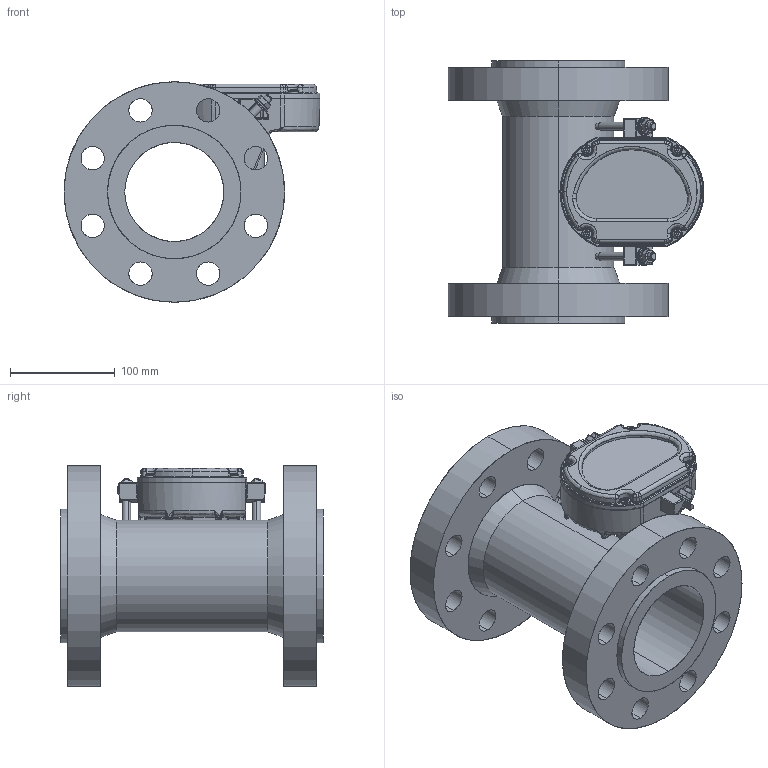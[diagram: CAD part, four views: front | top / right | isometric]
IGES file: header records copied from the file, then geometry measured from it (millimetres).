
Start section: SolidWorks IGES file using analytic representation for surfaces
Global section: file name: C:\Users\jodonnell\OneDrive - Illinois Tool Works, Inc\Desktop\3809G-A-15-H-2-A-0.IGS; native system: SolidWorks 2023; preprocessor: SolidWorks 2023; author: JODonnell; date: 250812.150222; units: millimetre
Bounding box: 243.72 x 250 x 210 mm (x, y, z)
Surface area: 413883.6 mm2 (no closed solid volume)
Topology: 0 solids, 0 shells, 1237 faces, 18549 edges, 18507 vertices
Faces by surface type: revolution 683, bspline 554
